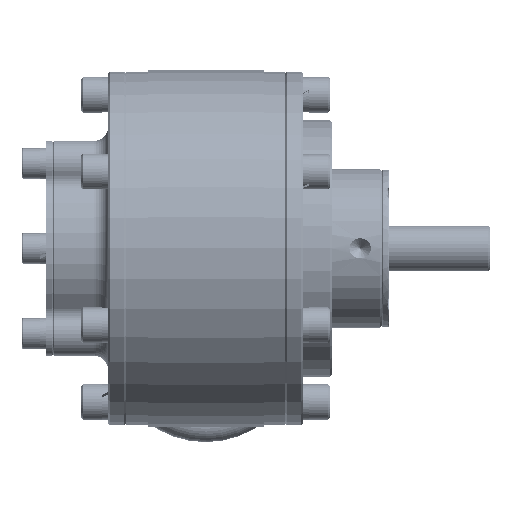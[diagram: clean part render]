
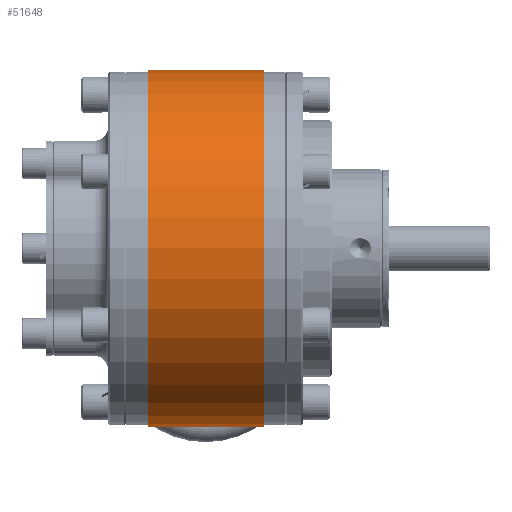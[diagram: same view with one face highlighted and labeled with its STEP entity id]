
A CAD part, front view. The second image highlights one B-rep face of the part: STEP entity #51648.
In plain terms, the highlighted cylindrical face has radius 50 mm (diameter 100 mm), a partial arc.
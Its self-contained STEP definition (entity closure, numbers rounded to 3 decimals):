
#4172 = VECTOR ( 'NONE', #173519, 1000. ) ;
#5363 = DIRECTION ( 'NONE',  ( -1., 0., 0. ) ) ;
#8723 = CIRCLE ( 'NONE', #183459, 50. ) ;
#33067 = DIRECTION ( 'NONE',  ( -1., 0., 0. ) ) ;
#33206 = CARTESIAN_POINT ( 'NONE',  ( -16.25, 0., -50. ) ) ;
#35852 = EDGE_CURVE ( 'NONE', #111372, #221645, #107095, .T. ) ;
#41127 = CARTESIAN_POINT ( 'NONE',  ( 16.25, 0., 0. ) ) ;
#44937 = VECTOR ( 'NONE', #5363, 1000. ) ;
#51648 = ADVANCED_FACE ( 'NONE', ( #206440 ), #217438, .T. ) ;
#61569 = CARTESIAN_POINT ( 'NONE',  ( -20.015, 0., 50. ) ) ;
#67547 = AXIS2_PLACEMENT_3D ( 'NONE', #124291, #33067, #123502 ) ;
#71931 = AXIS2_PLACEMENT_3D ( 'NONE', #41127, #113297, #95050 ) ;
#82208 = DIRECTION ( 'NONE',  ( 0., 0., 1. ) ) ;
#83608 = VERTEX_POINT ( 'NONE', #33206 ) ;
#83736 = EDGE_CURVE ( 'NONE', #111372, #183744, #130148, .T. ) ;
#95050 = DIRECTION ( 'NONE',  ( 0., 0., -1. ) ) ;
#96683 = ORIENTED_EDGE ( 'NONE', *, *, #167984, .F. ) ;
#107095 = CIRCLE ( 'NONE', #71931, 50. ) ;
#111372 = VERTEX_POINT ( 'NONE', #156390 ) ;
#112280 = ORIENTED_EDGE ( 'NONE', *, *, #83736, .T. ) ;
#113297 = DIRECTION ( 'NONE',  ( 1., 0., 0. ) ) ;
#117460 = CARTESIAN_POINT ( 'NONE',  ( -16.25, 0., 50. ) ) ;
#123502 = DIRECTION ( 'NONE',  ( 0., 0., 1. ) ) ;
#124291 = CARTESIAN_POINT ( 'NONE',  ( -20.015, 0., 0. ) ) ;
#130148 = LINE ( 'NONE', #61569, #44937 ) ;
#134816 = LINE ( 'NONE', #156034, #4172 ) ;
#137475 = ORIENTED_EDGE ( 'NONE', *, *, #35852, .F. ) ;
#156034 = CARTESIAN_POINT ( 'NONE',  ( -20.015, 0., -50. ) ) ;
#156390 = CARTESIAN_POINT ( 'NONE',  ( 16.25, 0., 50. ) ) ;
#167984 = EDGE_CURVE ( 'NONE', #221645, #83608, #134816, .T. ) ;
#169071 = EDGE_LOOP ( 'NONE', ( #96683, #137475, #112280, #198227 ) ) ;
#170474 = CARTESIAN_POINT ( 'NONE',  ( -16.25, 0., 0. ) ) ;
#173519 = DIRECTION ( 'NONE',  ( -1., 0., 0. ) ) ;
#174683 = CARTESIAN_POINT ( 'NONE',  ( 16.25, 0., -50. ) ) ;
#183459 = AXIS2_PLACEMENT_3D ( 'NONE', #170474, #188726, #82208 ) ;
#183744 = VERTEX_POINT ( 'NONE', #117460 ) ;
#188726 = DIRECTION ( 'NONE',  ( -1., 0., 0. ) ) ;
#189101 = EDGE_CURVE ( 'NONE', #83608, #183744, #8723, .T. ) ;
#198227 = ORIENTED_EDGE ( 'NONE', *, *, #189101, .F. ) ;
#206440 = FACE_OUTER_BOUND ( 'NONE', #169071, .T. ) ;
#217438 = CYLINDRICAL_SURFACE ( 'NONE', #67547, 50. ) ;
#221645 = VERTEX_POINT ( 'NONE', #174683 ) ;
